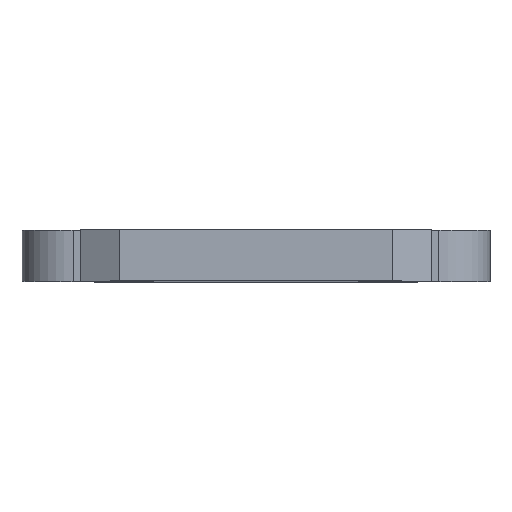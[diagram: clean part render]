
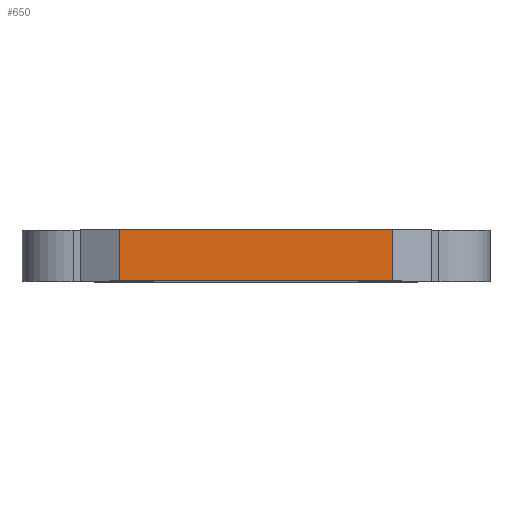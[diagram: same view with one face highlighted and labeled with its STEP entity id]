
A CAD part, top view. The second image highlights one B-rep face of the part: STEP entity #650.
In plain terms, the highlighted planar face has unit normal (0, 0, 1).
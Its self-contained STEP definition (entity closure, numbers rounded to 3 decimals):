
#1 = ORIENTED_EDGE ( 'NONE', *, *, #959, .F. ) ;
#16 = CARTESIAN_POINT ( 'NONE',  ( 10.7, 29., 137.43 ) ) ;
#22 = DIRECTION ( 'NONE',  ( 0., -1., 0. ) ) ;
#81 = VECTOR ( 'NONE', #1059, 1000. ) ;
#291 = LINE ( 'NONE', #1614, #1521 ) ;
#303 = DIRECTION ( 'NONE',  ( 0., -1., 0. ) ) ;
#325 = DIRECTION ( 'NONE',  ( 0., 0., -1. ) ) ;
#434 = VECTOR ( 'NONE', #1287, 1000. ) ;
#615 = VERTEX_POINT ( 'NONE', #1348 ) ;
#638 = ORIENTED_EDGE ( 'NONE', *, *, #839, .T. ) ;
#650 = ADVANCED_FACE ( 'NONE', ( #705 ), #1508, .F. ) ;
#660 = CARTESIAN_POINT ( 'NONE',  ( 10.7, 29., 137.43 ) ) ;
#685 = VERTEX_POINT ( 'NONE', #1593 ) ;
#705 = FACE_OUTER_BOUND ( 'NONE', #1686, .T. ) ;
#781 = VECTOR ( 'NONE', #303, 1000. ) ;
#839 = EDGE_CURVE ( 'NONE', #685, #1482, #850, .T. ) ;
#850 = LINE ( 'NONE', #1036, #434 ) ;
#936 = CARTESIAN_POINT ( 'NONE',  ( -10.7, 29., 137.43 ) ) ;
#959 = EDGE_CURVE ( 'NONE', #615, #1360, #1298, .T. ) ;
#988 = CARTESIAN_POINT ( 'NONE',  ( -4., 29., 137.43 ) ) ;
#1036 = CARTESIAN_POINT ( 'NONE',  ( -4., 25., 137.43 ) ) ;
#1059 = DIRECTION ( 'NONE',  ( 1., 0., 0. ) ) ;
#1079 = EDGE_CURVE ( 'NONE', #1360, #1482, #1556, .T. ) ;
#1103 = EDGE_CURVE ( 'NONE', #615, #685, #291, .T. ) ;
#1145 = ORIENTED_EDGE ( 'NONE', *, *, #1103, .T. ) ;
#1287 = DIRECTION ( 'NONE',  ( 1., 0., 0. ) ) ;
#1298 = LINE ( 'NONE', #936, #81 ) ;
#1348 = CARTESIAN_POINT ( 'NONE',  ( -10.7, 29., 137.43 ) ) ;
#1360 = VERTEX_POINT ( 'NONE', #660 ) ;
#1463 = DIRECTION ( 'NONE',  ( -1., 0., 0. ) ) ;
#1482 = VERTEX_POINT ( 'NONE', #1490 ) ;
#1490 = CARTESIAN_POINT ( 'NONE',  ( 10.7, 25., 137.43 ) ) ;
#1508 = PLANE ( 'NONE',  #1657 ) ;
#1521 = VECTOR ( 'NONE', #22, 1000. ) ;
#1556 = LINE ( 'NONE', #16, #781 ) ;
#1593 = CARTESIAN_POINT ( 'NONE',  ( -10.7, 25., 137.43 ) ) ;
#1614 = CARTESIAN_POINT ( 'NONE',  ( -10.7, 29., 137.43 ) ) ;
#1657 = AXIS2_PLACEMENT_3D ( 'NONE', #988, #325, #1463 ) ;
#1674 = ORIENTED_EDGE ( 'NONE', *, *, #1079, .F. ) ;
#1686 = EDGE_LOOP ( 'NONE', ( #638, #1674, #1, #1145 ) ) ;
